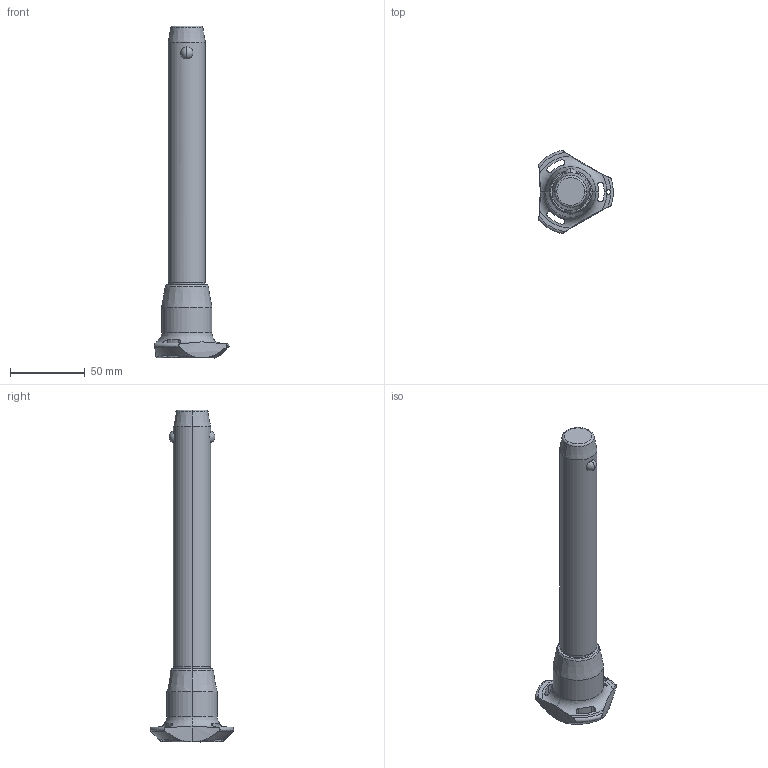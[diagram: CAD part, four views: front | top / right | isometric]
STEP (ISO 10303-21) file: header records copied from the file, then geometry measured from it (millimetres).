
FILE_DESCRIPTION (( 'STEP AP203' ), '1' );
FILE_NAME ('QR1714.M25-150-S.step', '2025-11-12T10:35:57', ( '' ), ( '' ), 'SwSTEP 2.0', 'SolidWorks 2019', '' );
FILE_SCHEMA (( 'CONFIG_CONTROL_DESIGN' ));
Length unit declared in the file: millimetre
Products named in the file (1): QR1714.M25-150-S
Bounding box: 50.04 x 56.02 x 222.7 mm (x, y, z)
Volume: 132084.6 mm3; surface area: 23230.2 mm2
Topology: 1 solids, 1 shells, 65 faces, 176 edges, 111 vertices
Faces by surface type: cylinder 30, cone 14, torus 11, sphere 6, plane 4
Entity records: 2858 total; most frequent: CARTESIAN_POINT 1179, ORIENTED_EDGE 352, DIRECTION 329, EDGE_CURVE 176, AXIS2_PLACEMENT_3D 147, VERTEX_POINT 111, CIRCLE 81, EDGE_LOOP 71
